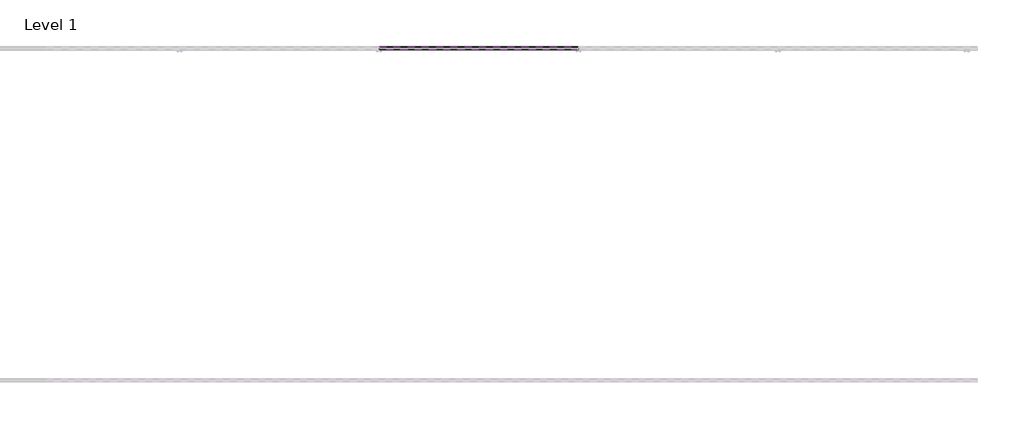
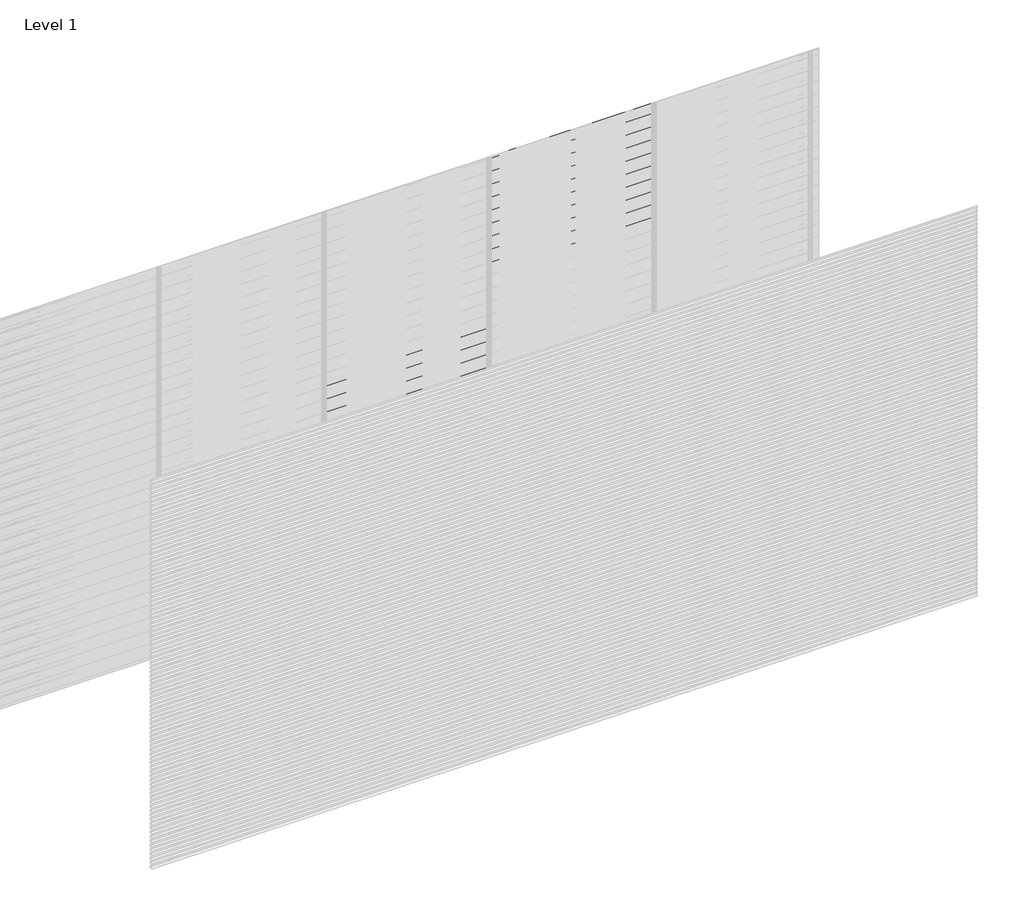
# One storey, part 75 of 77: 78 proxies.
"""IFC4 building model written with IfcOpenShell, lengths in millimetres."""

from ifc_helpers import new_model, si_unit, frame, origin, place, context, project, spatial, polyline, outline, extrude, element, save

model = new_model("IFC4")

# Units and contexts
model_context = context("Model", 3, world=origin())
ifc_project = project(units=[si_unit("LENGTHUNIT", "METRE", prefix="MILLI")], contexts=[model_context])

# Site, building, storey
site = spatial("IfcSite", under=ifc_project)
building = spatial("IfcBuilding", under=site)
storey = spatial("IfcBuildingStorey", under=building, Name="Level 1", Elevation=0.0)

# Proxies
placement = place(None, origin())
element("IfcBuildingElementProxy", 1, Name="Wall Sweeps", at=placement, inside=storey, context=model_context, shape_type="SweptSolid", body=[
    extrude(outline(polyline([(21.4, 1673.8359887), (2.0, 1685.0366691), (2.0, 1698.3), (3.0, 1698.3), (3.0, 1685.6191057), (22.4, 1674.4185105), (22.4, 1660.8185105), (21.4, 1662.3953129), (21.4, 1668.2032062), (4.0226183, 1660.1), (3.6, 1661.0063078), (21.4, 1669.3065841), (21.4, 1673.8359887)])), frame((2400.0, 0.0, 0.0), z_axis=(1.0, 0.0, 0.0), x_axis=(0.0, 1.0, 0.0)), (0.0, 0.0, 1.0), 1200.0),
])
element("IfcBuildingElementProxy", 2, Name="Wall Sweeps", at=placement, inside=storey, context=model_context, shape_type="SweptSolid", body=[
    extrude(outline(polyline([(21.4, 1640.5359887), (2.0, 1651.7366691), (2.0, 1665.0), (3.0, 1665.0), (3.0, 1652.3191057), (22.4, 1641.1185105), (22.4, 1627.5185105), (21.4, 1629.0953129), (21.4, 1634.9032062), (4.0226183, 1626.8), (3.6, 1627.7063078), (21.4, 1636.0065841), (21.4, 1640.5359887)])), frame((2400.0, 0.0, 0.0), z_axis=(1.0, 0.0, 0.0), x_axis=(0.0, 1.0, 0.0)), (0.0, 0.0, 1.0), 1200.0),
])
element("IfcBuildingElementProxy", 3, Name="Wall Sweeps", at=placement, inside=storey, context=model_context, shape_type="SweptSolid", body=[
    extrude(outline(polyline([(21.4, 1607.2359887), (2.0, 1618.4366691), (2.0, 1631.7), (3.0, 1631.7), (3.0, 1619.0191057), (22.4, 1607.8185105), (22.4, 1594.2185105), (21.4, 1595.7953129), (21.4, 1601.6032062), (4.0226183, 1593.5), (3.6, 1594.4063078), (21.4, 1602.7065841), (21.4, 1607.2359887)])), frame((2400.0, 0.0, 0.0), z_axis=(1.0, 0.0, 0.0), x_axis=(0.0, 1.0, 0.0)), (0.0, 0.0, 1.0), 1200.0),
])
element("IfcBuildingElementProxy", 4, Name="Wall Sweeps", at=placement, inside=storey, context=model_context, shape_type="SweptSolid", body=[
    extrude(outline(polyline([(21.4, 1573.9359887), (2.0, 1585.1366691), (2.0, 1598.4), (3.0, 1598.4), (3.0, 1585.7191057), (22.4, 1574.5185105), (22.4, 1560.9185105), (21.4, 1562.4953129), (21.4, 1568.3032062), (4.0226183, 1560.2), (3.6, 1561.1063078), (21.4, 1569.4065841), (21.4, 1573.9359887)])), frame((2400.0, 0.0, 0.0), z_axis=(1.0, 0.0, 0.0), x_axis=(0.0, 1.0, 0.0)), (0.0, 0.0, 1.0), 1200.0),
])
element("IfcBuildingElementProxy", 5, Name="Wall Sweeps", at=placement, inside=storey, context=model_context, shape_type="SweptSolid", body=[
    extrude(outline(polyline([(21.4, 1540.6359887), (2.0, 1551.8366691), (2.0, 1565.1), (3.0, 1565.1), (3.0, 1552.4191057), (22.4, 1541.2185105), (22.4, 1527.6185105), (21.4, 1529.1953129), (21.4, 1535.0032062), (4.0226183, 1526.9), (3.6, 1527.8063078), (21.4, 1536.1065841), (21.4, 1540.6359887)])), frame((2400.0, 0.0, 0.0), z_axis=(1.0, 0.0, 0.0), x_axis=(0.0, 1.0, 0.0)), (0.0, 0.0, 1.0), 1200.0),
])
element("IfcBuildingElementProxy", 6, Name="Wall Sweeps", at=placement, inside=storey, context=model_context, shape_type="SweptSolid", body=[
    extrude(outline(polyline([(21.4, 1507.3359887), (2.0, 1518.5366691), (2.0, 1531.8), (3.0, 1531.8), (3.0, 1519.1191057), (22.4, 1507.9185105), (22.4, 1494.3185105), (21.4, 1495.8953129), (21.4, 1501.7032062), (4.0226183, 1493.6), (3.6, 1494.5063078), (21.4, 1502.8065841), (21.4, 1507.3359887)])), frame((2400.0, 0.0, 0.0), z_axis=(1.0, 0.0, 0.0), x_axis=(0.0, 1.0, 0.0)), (0.0, 0.0, 1.0), 1200.0),
])
element("IfcBuildingElementProxy", 7, Name="Wall Sweeps", at=placement, inside=storey, context=model_context, shape_type="SweptSolid", body=[
    extrude(outline(polyline([(21.4, 1474.0359887), (2.0, 1485.2366691), (2.0, 1498.5), (3.0, 1498.5), (3.0, 1485.8191057), (22.4, 1474.6185105), (22.4, 1461.0185105), (21.4, 1462.5953129), (21.4, 1468.4032062), (4.0226183, 1460.3), (3.6, 1461.2063078), (21.4, 1469.5065841), (21.4, 1474.0359887)])), frame((2400.0, 0.0, 0.0), z_axis=(1.0, 0.0, 0.0), x_axis=(0.0, 1.0, 0.0)), (0.0, 0.0, 1.0), 1200.0),
])
element("IfcBuildingElementProxy", 8, Name="Wall Sweeps", at=placement, inside=storey, context=model_context, shape_type="SweptSolid", body=[
    extrude(outline(polyline([(21.4, 1440.7359887), (2.0, 1451.9366691), (2.0, 1465.2), (3.0, 1465.2), (3.0, 1452.5191057), (22.4, 1441.3185105), (22.4, 1427.7185105), (21.4, 1429.2953129), (21.4, 1435.1032062), (4.0226183, 1427.0), (3.6, 1427.9063078), (21.4, 1436.2065841), (21.4, 1440.7359887)])), frame((2400.0, 0.0, 0.0), z_axis=(1.0, 0.0, 0.0), x_axis=(0.0, 1.0, 0.0)), (0.0, 0.0, 1.0), 1200.0),
])
element("IfcBuildingElementProxy", 9, Name="Wall Sweeps", at=placement, inside=storey, context=model_context, shape_type="SweptSolid", body=[
    extrude(outline(polyline([(21.4, 1407.4359887), (2.0, 1418.6366691), (2.0, 1431.9), (3.0, 1431.9), (3.0, 1419.2191057), (22.4, 1408.0185105), (22.4, 1394.4185105), (21.4, 1395.9953129), (21.4, 1401.8032062), (4.0226183, 1393.7), (3.6, 1394.6063078), (21.4, 1402.9065841), (21.4, 1407.4359887)])), frame((2400.0, 0.0, 0.0), z_axis=(1.0, 0.0, 0.0), x_axis=(0.0, 1.0, 0.0)), (0.0, 0.0, 1.0), 1200.0),
])
element("IfcBuildingElementProxy", 10, Name="Wall Sweeps", at=placement, inside=storey, context=model_context, shape_type="SweptSolid", body=[
    extrude(outline(polyline([(21.4, 1374.1359887), (2.0, 1385.3366691), (2.0, 1398.6), (3.0, 1398.6), (3.0, 1385.9191057), (22.4, 1374.7185105), (22.4, 1361.1185105), (21.4, 1362.6953129), (21.4, 1368.5032062), (4.0226183, 1360.4), (3.6, 1361.3063078), (21.4, 1369.6065841), (21.4, 1374.1359887)])), frame((2400.0, 0.0, 0.0), z_axis=(1.0, 0.0, 0.0), x_axis=(0.0, 1.0, 0.0)), (0.0, 0.0, 1.0), 1200.0),
])
element("IfcBuildingElementProxy", 11, Name="Wall Sweeps", at=placement, inside=storey, context=model_context, shape_type="SweptSolid", body=[
    extrude(outline(polyline([(21.4, 1340.8359887), (2.0, 1352.0366691), (2.0, 1365.3), (3.0, 1365.3), (3.0, 1352.6191057), (22.4, 1341.4185105), (22.4, 1327.8185105), (21.4, 1329.3953129), (21.4, 1335.2032062), (4.0226183, 1327.1), (3.6, 1328.0063078), (21.4, 1336.3065841), (21.4, 1340.8359887)])), frame((2400.0, 0.0, 0.0), z_axis=(1.0, 0.0, 0.0), x_axis=(0.0, 1.0, 0.0)), (0.0, 0.0, 1.0), 1200.0),
])
element("IfcBuildingElementProxy", 12, Name="Wall Sweeps", at=placement, inside=storey, context=model_context, shape_type="SweptSolid", body=[
    extrude(outline(polyline([(21.4, 1307.5359887), (2.0, 1318.7366691), (2.0, 1332.0), (3.0, 1332.0), (3.0, 1319.3191057), (22.4, 1308.1185105), (22.4, 1294.5185105), (21.4, 1296.0953129), (21.4, 1301.9032062), (4.0226183, 1293.8), (3.6, 1294.7063078), (21.4, 1303.0065841), (21.4, 1307.5359887)])), frame((2400.0, 0.0, 0.0), z_axis=(1.0, 0.0, 0.0), x_axis=(0.0, 1.0, 0.0)), (0.0, 0.0, 1.0), 1200.0),
])
element("IfcBuildingElementProxy", 13, Name="Wall Sweeps", at=placement, inside=storey, context=model_context, shape_type="SweptSolid", body=[
    extrude(outline(polyline([(21.4, 1274.2359887), (2.0, 1285.4366691), (2.0, 1298.7), (3.0, 1298.7), (3.0, 1286.0191057), (22.4, 1274.8185105), (22.4, 1261.2185105), (21.4, 1262.7953129), (21.4, 1268.6032062), (4.0226183, 1260.5), (3.6, 1261.4063078), (21.4, 1269.7065841), (21.4, 1274.2359887)])), frame((2400.0, 0.0, 0.0), z_axis=(1.0, 0.0, 0.0), x_axis=(0.0, 1.0, 0.0)), (0.0, 0.0, 1.0), 1200.0),
])
element("IfcBuildingElementProxy", 14, Name="Wall Sweeps", at=placement, inside=storey, context=model_context, shape_type="SweptSolid", body=[
    extrude(outline(polyline([(21.4, 1240.9359887), (2.0, 1252.1366691), (2.0, 1265.4), (3.0, 1265.4), (3.0, 1252.7191057), (22.4, 1241.5185105), (22.4, 1227.9185105), (21.4, 1229.4953129), (21.4, 1235.3032062), (4.0226183, 1227.2), (3.6, 1228.1063078), (21.4, 1236.4065841), (21.4, 1240.9359887)])), frame((2400.0, 0.0, 0.0), z_axis=(1.0, 0.0, 0.0), x_axis=(0.0, 1.0, 0.0)), (0.0, 0.0, 1.0), 1200.0),
])
element("IfcBuildingElementProxy", 15, Name="Wall Sweeps", at=placement, inside=storey, context=model_context, shape_type="SweptSolid", body=[
    extrude(outline(polyline([(21.4, 1207.6359887), (2.0, 1218.8366691), (2.0, 1232.1), (3.0, 1232.1), (3.0, 1219.4191057), (22.4, 1208.2185105), (22.4, 1194.6185105), (21.4, 1196.1953129), (21.4, 1202.0032062), (4.0226183, 1193.9), (3.6, 1194.8063078), (21.4, 1203.1065841), (21.4, 1207.6359887)])), frame((2400.0, 0.0, 0.0), z_axis=(1.0, 0.0, 0.0), x_axis=(0.0, 1.0, 0.0)), (0.0, 0.0, 1.0), 1200.0),
])
element("IfcBuildingElementProxy", 16, Name="Wall Sweeps", at=placement, inside=storey, context=model_context, shape_type="SweptSolid", body=[
    extrude(outline(polyline([(21.4, 1174.3359887), (2.0, 1185.5366691), (2.0, 1198.8), (3.0, 1198.8), (3.0, 1186.1191057), (22.4, 1174.9185105), (22.4, 1161.3185105), (21.4, 1162.8953129), (21.4, 1168.7032062), (4.0226183, 1160.6), (3.6, 1161.5063078), (21.4, 1169.8065841), (21.4, 1174.3359887)])), frame((2400.0, 0.0, 0.0), z_axis=(1.0, 0.0, 0.0), x_axis=(0.0, 1.0, 0.0)), (0.0, 0.0, 1.0), 1200.0),
])
element("IfcBuildingElementProxy", 17, Name="Wall Sweeps", at=placement, inside=storey, context=model_context, shape_type="SweptSolid", body=[
    extrude(outline(polyline([(21.4, 1141.0359887), (2.0, 1152.2366691), (2.0, 1165.5), (3.0, 1165.5), (3.0, 1152.8191057), (22.4, 1141.6185105), (22.4, 1128.0185105), (21.4, 1129.5953129), (21.4, 1135.4032062), (4.0226183, 1127.3), (3.6, 1128.2063078), (21.4, 1136.5065841), (21.4, 1141.0359887)])), frame((2400.0, 0.0, 0.0), z_axis=(1.0, 0.0, 0.0), x_axis=(0.0, 1.0, 0.0)), (0.0, 0.0, 1.0), 1200.0),
])
element("IfcBuildingElementProxy", 18, Name="Wall Sweeps", at=placement, inside=storey, context=model_context, shape_type="SweptSolid", body=[
    extrude(outline(polyline([(21.4, 1107.7359887), (2.0, 1118.9366691), (2.0, 1132.2), (3.0, 1132.2), (3.0, 1119.5191057), (22.4, 1108.3185105), (22.4, 1094.7185105), (21.4, 1096.2953129), (21.4, 1102.1032062), (4.0226183, 1094.0), (3.6, 1094.9063078), (21.4, 1103.2065841), (21.4, 1107.7359887)])), frame((2400.0, 0.0, 0.0), z_axis=(1.0, 0.0, 0.0), x_axis=(0.0, 1.0, 0.0)), (0.0, 0.0, 1.0), 1200.0),
])
element("IfcBuildingElementProxy", 19, Name="Wall Sweeps", at=placement, inside=storey, context=model_context, shape_type="SweptSolid", body=[
    extrude(outline(polyline([(21.4, 1074.4359887), (2.0, 1085.6366691), (2.0, 1098.9), (3.0, 1098.9), (3.0, 1086.2191057), (22.4, 1075.0185105), (22.4, 1061.4185105), (21.4, 1062.9953129), (21.4, 1068.8032062), (4.0226183, 1060.7), (3.6, 1061.6063078), (21.4, 1069.9065841), (21.4, 1074.4359887)])), frame((2400.0, 0.0, 0.0), z_axis=(1.0, 0.0, 0.0), x_axis=(0.0, 1.0, 0.0)), (0.0, 0.0, 1.0), 1200.0),
])
element("IfcBuildingElementProxy", 20, Name="Wall Sweeps", at=placement, inside=storey, context=model_context, shape_type="SweptSolid", body=[
    extrude(outline(polyline([(21.4, 1041.1359887), (2.0, 1052.3366691), (2.0, 1065.6), (3.0, 1065.6), (3.0, 1052.9191057), (22.4, 1041.7185105), (22.4, 1028.1185105), (21.4, 1029.6953129), (21.4, 1035.5032062), (4.0226183, 1027.4), (3.6, 1028.3063078), (21.4, 1036.6065841), (21.4, 1041.1359887)])), frame((2400.0, 0.0, 0.0), z_axis=(1.0, 0.0, 0.0), x_axis=(0.0, 1.0, 0.0)), (0.0, 0.0, 1.0), 1200.0),
])
element("IfcBuildingElementProxy", 21, Name="Wall Sweeps", at=placement, inside=storey, context=model_context, shape_type="SweptSolid", body=[
    extrude(outline(polyline([(21.4, 1007.8359887), (2.0, 1019.0366691), (2.0, 1032.3), (3.0, 1032.3), (3.0, 1019.6191057), (22.4, 1008.4185105), (22.4, 994.8185105), (21.4, 996.3953129), (21.4, 1002.2032062), (4.0226183, 994.1), (3.6, 995.0063078), (21.4, 1003.3065841), (21.4, 1007.8359887)])), frame((2400.0, 0.0, 0.0), z_axis=(1.0, 0.0, 0.0), x_axis=(0.0, 1.0, 0.0)), (0.0, 0.0, 1.0), 1200.0),
])
element("IfcBuildingElementProxy", 22, Name="Wall Sweeps", at=placement, inside=storey, context=model_context, shape_type="SweptSolid", body=[
    extrude(outline(polyline([(21.4, 974.5359887), (2.0, 985.7366691), (2.0, 999.0), (3.0, 999.0), (3.0, 986.3191057), (22.4, 975.1185105), (22.4, 961.5185105), (21.4, 963.0953129), (21.4, 968.9032062), (4.0226183, 960.8), (3.6, 961.7063078), (21.4, 970.0065841), (21.4, 974.5359887)])), frame((2400.0, 0.0, 0.0), z_axis=(1.0, 0.0, 0.0), x_axis=(0.0, 1.0, 0.0)), (0.0, 0.0, 1.0), 1200.0),
])
element("IfcBuildingElementProxy", 23, Name="Wall Sweeps", at=placement, inside=storey, context=model_context, shape_type="SweptSolid", body=[
    extrude(outline(polyline([(21.4, 941.2359887), (2.0, 952.4366691), (2.0, 965.7), (3.0, 965.7), (3.0, 953.0191057), (22.4, 941.8185105), (22.4, 928.2185105), (21.4, 929.7953129), (21.4, 935.6032062), (4.0226183, 927.5), (3.6, 928.4063078), (21.4, 936.7065841), (21.4, 941.2359887)])), frame((2400.0, 0.0, 0.0), z_axis=(1.0, 0.0, 0.0), x_axis=(0.0, 1.0, 0.0)), (0.0, 0.0, 1.0), 1200.0),
])
element("IfcBuildingElementProxy", 24, Name="Wall Sweeps", at=placement, inside=storey, context=model_context, shape_type="SweptSolid", body=[
    extrude(outline(polyline([(21.4, 907.9359887), (2.0, 919.1366691), (2.0, 932.4), (3.0, 932.4), (3.0, 919.7191057), (22.4, 908.5185105), (22.4, 894.9185105), (21.4, 896.4953129), (21.4, 902.3032062), (4.0226183, 894.2), (3.6, 895.1063078), (21.4, 903.4065841), (21.4, 907.9359887)])), frame((2400.0, 0.0, 0.0), z_axis=(1.0, 0.0, 0.0), x_axis=(0.0, 1.0, 0.0)), (0.0, 0.0, 1.0), 1200.0),
])
element("IfcBuildingElementProxy", 25, Name="Wall Sweeps", at=placement, inside=storey, context=model_context, shape_type="SweptSolid", body=[
    extrude(outline(polyline([(21.4, 874.6359887), (2.0, 885.8366691), (2.0, 899.1), (3.0, 899.1), (3.0, 886.4191057), (22.4, 875.2185105), (22.4, 861.6185105), (21.4, 863.1953129), (21.4, 869.0032062), (4.0226183, 860.9), (3.6, 861.8063078), (21.4, 870.1065841), (21.4, 874.6359887)])), frame((2400.0, 0.0, 0.0), z_axis=(1.0, 0.0, 0.0), x_axis=(0.0, 1.0, 0.0)), (0.0, 0.0, 1.0), 1200.0),
])
element("IfcBuildingElementProxy", 26, Name="Wall Sweeps", at=placement, inside=storey, context=model_context, shape_type="SweptSolid", body=[
    extrude(outline(polyline([(21.4, 841.3359887), (2.0, 852.5366691), (2.0, 865.8), (3.0, 865.8), (3.0, 853.1191057), (22.4, 841.9185105), (22.4, 828.3185105), (21.4, 829.8953129), (21.4, 835.7032062), (4.0226183, 827.6), (3.6, 828.5063078), (21.4, 836.8065841), (21.4, 841.3359887)])), frame((2400.0, 0.0, 0.0), z_axis=(1.0, 0.0, 0.0), x_axis=(0.0, 1.0, 0.0)), (0.0, 0.0, 1.0), 1200.0),
])
element("IfcBuildingElementProxy", 27, Name="Wall Sweeps", at=placement, inside=storey, context=model_context, shape_type="SweptSolid", body=[
    extrude(outline(polyline([(21.4, 808.0359887), (2.0, 819.2366691), (2.0, 832.5), (3.0, 832.5), (3.0, 819.8191057), (22.4, 808.6185105), (22.4, 795.0185105), (21.4, 796.5953129), (21.4, 802.4032062), (4.0226183, 794.3), (3.6, 795.2063078), (21.4, 803.5065841), (21.4, 808.0359887)])), frame((2400.0, 0.0, 0.0), z_axis=(1.0, 0.0, 0.0), x_axis=(0.0, 1.0, 0.0)), (0.0, 0.0, 1.0), 1200.0),
])
element("IfcBuildingElementProxy", 28, Name="Wall Sweeps", at=placement, inside=storey, context=model_context, shape_type="SweptSolid", body=[
    extrude(outline(polyline([(21.4, 774.7359887), (2.0, 785.9366691), (2.0, 799.2), (3.0, 799.2), (3.0, 786.5191057), (22.4, 775.3185105), (22.4, 761.7185105), (21.4, 763.2953129), (21.4, 769.1032062), (4.0226183, 761.0), (3.6, 761.9063078), (21.4, 770.2065841), (21.4, 774.7359887)])), frame((2400.0, 0.0, 0.0), z_axis=(1.0, 0.0, 0.0), x_axis=(0.0, 1.0, 0.0)), (0.0, 0.0, 1.0), 1200.0),
])
element("IfcBuildingElementProxy", 29, Name="Wall Sweeps", at=placement, inside=storey, context=model_context, shape_type="SweptSolid", body=[
    extrude(outline(polyline([(21.4, 741.4359887), (2.0, 752.6366691), (2.0, 765.9), (3.0, 765.9), (3.0, 753.2191057), (22.4, 742.0185105), (22.4, 728.4185105), (21.4, 729.9953129), (21.4, 735.8032062), (4.0226183, 727.7), (3.6, 728.6063078), (21.4, 736.9065841), (21.4, 741.4359887)])), frame((2400.0, 0.0, 0.0), z_axis=(1.0, 0.0, 0.0), x_axis=(0.0, 1.0, 0.0)), (0.0, 0.0, 1.0), 1200.0),
])
element("IfcBuildingElementProxy", 30, Name="Wall Sweeps", at=placement, inside=storey, context=model_context, shape_type="SweptSolid", body=[
    extrude(outline(polyline([(21.4, 708.1359887), (2.0, 719.3366691), (2.0, 732.6), (3.0, 732.6), (3.0, 719.9191057), (22.4, 708.7185105), (22.4, 695.1185105), (21.4, 696.6953129), (21.4, 702.5032062), (4.0226183, 694.4), (3.6, 695.3063078), (21.4, 703.6065841), (21.4, 708.1359887)])), frame((2400.0, 0.0, 0.0), z_axis=(1.0, 0.0, 0.0), x_axis=(0.0, 1.0, 0.0)), (0.0, 0.0, 1.0), 1200.0),
])
element("IfcBuildingElementProxy", 31, Name="Wall Sweeps", at=placement, inside=storey, context=model_context, shape_type="SweptSolid", body=[
    extrude(outline(polyline([(21.4, 674.8359887), (2.0, 686.0366691), (2.0, 699.3), (3.0, 699.3), (3.0, 686.6191057), (22.4, 675.4185105), (22.4, 661.8185105), (21.4, 663.3953129), (21.4, 669.2032062), (4.0226183, 661.1), (3.6, 662.0063078), (21.4, 670.3065841), (21.4, 674.8359887)])), frame((2400.0, 0.0, 0.0), z_axis=(1.0, 0.0, 0.0), x_axis=(0.0, 1.0, 0.0)), (0.0, 0.0, 1.0), 1200.0),
])
element("IfcBuildingElementProxy", 32, Name="Wall Sweeps", at=placement, inside=storey, context=model_context, shape_type="SweptSolid", body=[
    extrude(outline(polyline([(21.4, 641.5359887), (2.0, 652.7366691), (2.0, 666.0), (3.0, 666.0), (3.0, 653.3191057), (22.4, 642.1185105), (22.4, 628.5185105), (21.4, 630.0953129), (21.4, 635.9032062), (4.0226183, 627.8), (3.6, 628.7063078), (21.4, 637.0065841), (21.4, 641.5359887)])), frame((2400.0, 0.0, 0.0), z_axis=(1.0, 0.0, 0.0), x_axis=(0.0, 1.0, 0.0)), (0.0, 0.0, 1.0), 1200.0),
])
element("IfcBuildingElementProxy", 33, Name="Wall Sweeps", at=placement, inside=storey, context=model_context, shape_type="SweptSolid", body=[
    extrude(outline(polyline([(21.4, 608.2359887), (2.0, 619.4366691), (2.0, 632.7), (3.0, 632.7), (3.0, 620.0191057), (22.4, 608.8185105), (22.4, 595.2185105), (21.4, 596.7953129), (21.4, 602.6032062), (4.0226183, 594.5), (3.6, 595.4063078), (21.4, 603.7065841), (21.4, 608.2359887)])), frame((2400.0, 0.0, 0.0), z_axis=(1.0, 0.0, 0.0), x_axis=(0.0, 1.0, 0.0)), (0.0, 0.0, 1.0), 1200.0),
])
element("IfcBuildingElementProxy", 34, Name="Wall Sweeps", at=placement, inside=storey, context=model_context, shape_type="SweptSolid", body=[
    extrude(outline(polyline([(21.4, 574.9359887), (2.0, 586.1366691), (2.0, 599.4), (3.0, 599.4), (3.0, 586.7191057), (22.4, 575.5185105), (22.4, 561.9185105), (21.4, 563.4953129), (21.4, 569.3032062), (4.0226183, 561.2), (3.6, 562.1063078), (21.4, 570.4065841), (21.4, 574.9359887)])), frame((2400.0, 0.0, 0.0), z_axis=(1.0, 0.0, 0.0), x_axis=(0.0, 1.0, 0.0)), (0.0, 0.0, 1.0), 1200.0),
])
element("IfcBuildingElementProxy", 35, Name="Wall Sweeps", at=placement, inside=storey, context=model_context, shape_type="SweptSolid", body=[
    extrude(outline(polyline([(21.4, 541.6359887), (2.0, 552.8366691), (2.0, 566.1), (3.0, 566.1), (3.0, 553.4191057), (22.4, 542.2185105), (22.4, 528.6185105), (21.4, 530.1953129), (21.4, 536.0032062), (4.0226183, 527.9), (3.6, 528.8063078), (21.4, 537.1065841), (21.4, 541.6359887)])), frame((2400.0, 0.0, 0.0), z_axis=(1.0, 0.0, 0.0), x_axis=(0.0, 1.0, 0.0)), (0.0, 0.0, 1.0), 1200.0),
])
element("IfcBuildingElementProxy", 36, Name="Wall Sweeps", at=placement, inside=storey, context=model_context, shape_type="SweptSolid", body=[
    extrude(outline(polyline([(21.4, 508.3359887), (2.0, 519.5366691), (2.0, 532.8), (3.0, 532.8), (3.0, 520.1191057), (22.4, 508.9185105), (22.4, 495.3185105), (21.4, 496.8953129), (21.4, 502.7032062), (4.0226183, 494.6), (3.6, 495.5063078), (21.4, 503.8065841), (21.4, 508.3359887)])), frame((2400.0, 0.0, 0.0), z_axis=(1.0, 0.0, 0.0), x_axis=(0.0, 1.0, 0.0)), (0.0, 0.0, 1.0), 1200.0),
])
element("IfcBuildingElementProxy", 37, Name="Wall Sweeps", at=placement, inside=storey, context=model_context, shape_type="SweptSolid", body=[
    extrude(outline(polyline([(21.4, 475.0359887), (2.0, 486.2366691), (2.0, 499.5), (3.0, 499.5), (3.0, 486.8191057), (22.4, 475.6185105), (22.4, 462.0185105), (21.4, 463.5953129), (21.4, 469.4032062), (4.0226183, 461.3), (3.6, 462.2063078), (21.4, 470.5065841), (21.4, 475.0359887)])), frame((2400.0, 0.0, 0.0), z_axis=(1.0, 0.0, 0.0), x_axis=(0.0, 1.0, 0.0)), (0.0, 0.0, 1.0), 1200.0),
])
element("IfcBuildingElementProxy", 38, Name="Wall Sweeps", at=placement, inside=storey, context=model_context, shape_type="SweptSolid", body=[
    extrude(outline(polyline([(21.4, 441.7359887), (2.0, 452.9366691), (2.0, 466.2), (3.0, 466.2), (3.0, 453.5191057), (22.4, 442.3185105), (22.4, 428.7185105), (21.4, 430.2953129), (21.4, 436.1032062), (4.0226183, 428.0), (3.6, 428.9063078), (21.4, 437.2065841), (21.4, 441.7359887)])), frame((2400.0, 0.0, 0.0), z_axis=(1.0, 0.0, 0.0), x_axis=(0.0, 1.0, 0.0)), (0.0, 0.0, 1.0), 1200.0),
])
element("IfcBuildingElementProxy", 39, Name="Wall Sweeps", at=placement, inside=storey, context=model_context, shape_type="SweptSolid", body=[
    extrude(outline(polyline([(21.4, 408.4359887), (2.0, 419.6366691), (2.0, 432.9), (3.0, 432.9), (3.0, 420.2191057), (22.4, 409.0185105), (22.4, 395.4185105), (21.4, 396.9953129), (21.4, 402.8032062), (4.0226183, 394.7), (3.6, 395.6063078), (21.4, 403.9065841), (21.4, 408.4359887)])), frame((2400.0, 0.0, 0.0), z_axis=(1.0, 0.0, 0.0), x_axis=(0.0, 1.0, 0.0)), (0.0, 0.0, 1.0), 1200.0),
])
element("IfcBuildingElementProxy", 40, Name="Wall Sweeps", at=placement, inside=storey, context=model_context, shape_type="SweptSolid", body=[
    extrude(outline(polyline([(21.4, 375.1359887), (2.0, 386.3366691), (2.0, 399.6), (3.0, 399.6), (3.0, 386.9191057), (22.4, 375.7185105), (22.4, 362.1185105), (21.4, 363.6953129), (21.4, 369.5032062), (4.0226183, 361.4), (3.6, 362.3063078), (21.4, 370.6065841), (21.4, 375.1359887)])), frame((2400.0, 0.0, 0.0), z_axis=(1.0, 0.0, 0.0), x_axis=(0.0, 1.0, 0.0)), (0.0, 0.0, 1.0), 1200.0),
])
element("IfcBuildingElementProxy", 41, Name="Wall Sweeps", at=placement, inside=storey, context=model_context, shape_type="SweptSolid", body=[
    extrude(outline(polyline([(21.4, 341.8359887), (2.0, 353.0366691), (2.0, 366.3), (3.0, 366.3), (3.0, 353.6191057), (22.4, 342.4185105), (22.4, 328.8185105), (21.4, 330.3953129), (21.4, 336.2032062), (4.0226183, 328.1), (3.6, 329.0063078), (21.4, 337.3065841), (21.4, 341.8359887)])), frame((2400.0, 0.0, 0.0), z_axis=(1.0, 0.0, 0.0), x_axis=(0.0, 1.0, 0.0)), (0.0, 0.0, 1.0), 1200.0),
])
element("IfcBuildingElementProxy", 42, Name="Wall Sweeps", at=placement, inside=storey, context=model_context, shape_type="SweptSolid", body=[
    extrude(outline(polyline([(21.4, 308.5359887), (2.0, 319.7366691), (2.0, 333.0), (3.0, 333.0), (3.0, 320.3191057), (22.4, 309.1185105), (22.4, 295.5185105), (21.4, 297.0953129), (21.4, 302.9032062), (4.0226183, 294.8), (3.6, 295.7063078), (21.4, 304.0065841), (21.4, 308.5359887)])), frame((2400.0, 0.0, 0.0), z_axis=(1.0, 0.0, 0.0), x_axis=(0.0, 1.0, 0.0)), (0.0, 0.0, 1.0), 1200.0),
])
element("IfcBuildingElementProxy", 43, Name="Wall Sweeps", at=placement, inside=storey, context=model_context, shape_type="SweptSolid", body=[
    extrude(outline(polyline([(21.4, 275.2359887), (2.0, 286.4366691), (2.0, 299.7), (3.0, 299.7), (3.0, 287.0191057), (22.4, 275.8185105), (22.4, 262.2185105), (21.4, 263.7953129), (21.4, 269.6032062), (4.0226183, 261.5), (3.6, 262.4063078), (21.4, 270.7065841), (21.4, 275.2359887)])), frame((2400.0, 0.0, 0.0), z_axis=(1.0, 0.0, 0.0), x_axis=(0.0, 1.0, 0.0)), (0.0, 0.0, 1.0), 1200.0),
])
element("IfcBuildingElementProxy", 44, Name="Wall Sweeps", at=placement, inside=storey, context=model_context, shape_type="SweptSolid", body=[
    extrude(outline(polyline([(21.4, 241.9359887), (2.0, 253.1366691), (2.0, 266.4), (3.0, 266.4), (3.0, 253.7191057), (22.4, 242.5185105), (22.4, 228.9185105), (21.4, 230.4953129), (21.4, 236.3032062), (4.0226183, 228.2), (3.6, 229.1063078), (21.4, 237.4065841), (21.4, 241.9359887)])), frame((2400.0, 0.0, 0.0), z_axis=(1.0, 0.0, 0.0), x_axis=(0.0, 1.0, 0.0)), (0.0, 0.0, 1.0), 1200.0),
])
element("IfcBuildingElementProxy", 45, Name="Wall Sweeps", at=placement, inside=storey, context=model_context, shape_type="SweptSolid", body=[
    extrude(outline(polyline([(21.4, 208.6359887), (2.0, 219.8366691), (2.0, 233.1), (3.0, 233.1), (3.0, 220.4191057), (22.4, 209.2185105), (22.4, 195.6185105), (21.4, 197.1953129), (21.4, 203.0032062), (4.0226183, 194.9), (3.6, 195.8063078), (21.4, 204.1065841), (21.4, 208.6359887)])), frame((2400.0, 0.0, 0.0), z_axis=(1.0, 0.0, 0.0), x_axis=(0.0, 1.0, 0.0)), (0.0, 0.0, 1.0), 1200.0),
])
element("IfcBuildingElementProxy", 46, Name="Wall Sweeps", at=placement, inside=storey, context=model_context, shape_type="SweptSolid", body=[
    extrude(outline(polyline([(21.4, 175.3359887), (2.0, 186.5366691), (2.0, 199.8), (3.0, 199.8), (3.0, 187.1191057), (22.4, 175.9185105), (22.4, 162.3185105), (21.4, 163.8953129), (21.4, 169.7032062), (4.0226183, 161.6), (3.6, 162.5063078), (21.4, 170.8065841), (21.4, 175.3359887)])), frame((2400.0, 0.0, 0.0), z_axis=(1.0, 0.0, 0.0), x_axis=(0.0, 1.0, 0.0)), (0.0, 0.0, 1.0), 1200.0),
])
element("IfcBuildingElementProxy", 47, Name="Wall Sweeps", at=placement, inside=storey, context=model_context, shape_type="SweptSolid", body=[
    extrude(outline(polyline([(21.4, 142.0359887), (2.0, 153.2366691), (2.0, 166.5), (3.0, 166.5), (3.0, 153.8191057), (22.4, 142.6185105), (22.4, 129.0185105), (21.4, 130.5953129), (21.4, 136.4032062), (4.0226183, 128.3), (3.6, 129.2063078), (21.4, 137.5065841), (21.4, 142.0359887)])), frame((2400.0, 0.0, 0.0), z_axis=(1.0, 0.0, 0.0), x_axis=(0.0, 1.0, 0.0)), (0.0, 0.0, 1.0), 1200.0),
])
element("IfcBuildingElementProxy", 48, Name="Wall Sweeps", at=placement, inside=storey, context=model_context, shape_type="SweptSolid", body=[
    extrude(outline(polyline([(21.4, 108.7359887), (2.0, 119.9366691), (2.0, 133.2), (3.0, 133.2), (3.0, 120.5191057), (22.4, 109.3185105), (22.4, 95.7185105), (21.4, 97.2953129), (21.4, 103.1032062), (4.0226183, 95.0), (3.6, 95.9063078), (21.4, 104.2065841), (21.4, 108.7359887)])), frame((2400.0, 0.0, 0.0), z_axis=(1.0, 0.0, 0.0), x_axis=(0.0, 1.0, 0.0)), (0.0, 0.0, 1.0), 1200.0),
])
element("IfcBuildingElementProxy", 49, Name="Wall Sweeps", at=placement, inside=storey, context=model_context, shape_type="SweptSolid", body=[
    extrude(outline(polyline([(21.4, 75.4359887), (2.0, 86.6366691), (2.0, 99.9), (3.0, 99.9), (3.0, 87.2191057), (22.4, 76.0185105), (22.4, 62.4185105), (21.4, 63.9953129), (21.4, 69.8032062), (4.0226183, 61.7), (3.6, 62.6063078), (21.4, 70.9065841), (21.4, 75.4359887)])), frame((2400.0, 0.0, 0.0), z_axis=(1.0, 0.0, 0.0), x_axis=(0.0, 1.0, 0.0)), (0.0, 0.0, 1.0), 1200.0),
])
element("IfcBuildingElementProxy", 50, Name="Wall Sweeps", at=placement, inside=storey, context=model_context, shape_type="SweptSolid", body=[
    extrude(outline(polyline([(21.4, 42.1359887), (2.0, 53.3366691), (2.0, 66.6), (3.0, 66.6), (3.0, 53.9191057), (22.4, 42.7185105), (22.4, 29.1185105), (21.4, 30.6953129), (21.4, 36.5032062), (4.0226183, 28.4), (3.6, 29.3063078), (21.4, 37.6065841), (21.4, 42.1359887)])), frame((2400.0, 0.0, 0.0), z_axis=(1.0, 0.0, 0.0), x_axis=(0.0, 1.0, 0.0)), (0.0, 0.0, 1.0), 1200.0),
])
element("IfcBuildingElementProxy", 51, Name="Wall Sweeps", at=placement, inside=storey, context=model_context, shape_type="SweptSolid", body=[
    extrude(outline(polyline([(21.4, 8.8359887), (2.0, 20.0366691), (2.0, 33.3), (3.0, 33.3), (3.0, 20.6191057), (22.4, 9.4185105), (22.4, -4.1814895), (21.4, -2.6046871), (21.4, 3.2032062), (4.0226183, -4.9), (3.6, -3.9936922), (21.4, 4.3065841), (21.4, 8.8359887)])), frame((2400.0, 0.0, 0.0), z_axis=(1.0, 0.0, 0.0), x_axis=(0.0, 1.0, 0.0)), (0.0, 0.0, 1.0), 1200.0),
])
element("IfcBuildingElementProxy", 52, Name="Wall Sweeps", at=placement, inside=storey, context=model_context, shape_type="SweptSolid", body=[
    extrude(outline(polyline([(21.4, 2972.5359887), (2.0, 2983.7366691), (2.0, 2997.0), (3.0, 2997.0), (3.0, 2984.3191057), (22.4, 2973.1185105), (22.4, 2959.5185105), (21.4, 2961.0953129), (21.4, 2966.9032062), (4.0226183, 2958.8), (3.6, 2959.7063078), (21.4, 2968.0065841), (21.4, 2972.5359887)])), frame((3600.0, 0.0, 0.0), z_axis=(1.0, 0.0, 0.0), x_axis=(0.0, 1.0, 0.0)), (0.0, 0.0, 1.0), 1200.0),
])
element("IfcBuildingElementProxy", 53, Name="Wall Sweeps", at=placement, inside=storey, context=model_context, shape_type="SweptSolid", body=[
    extrude(outline(polyline([(21.4, 2939.2359887), (2.0, 2950.4366691), (2.0, 2963.7), (3.0, 2963.7), (3.0, 2951.0191057), (22.4, 2939.8185105), (22.4, 2926.2185105), (21.4, 2927.7953129), (21.4, 2933.6032062), (4.0226183, 2925.5), (3.6, 2926.4063078), (21.4, 2934.7065841), (21.4, 2939.2359887)])), frame((3600.0, 0.0, 0.0), z_axis=(1.0, 0.0, 0.0), x_axis=(0.0, 1.0, 0.0)), (0.0, 0.0, 1.0), 1200.0),
])
element("IfcBuildingElementProxy", 54, Name="Wall Sweeps", at=placement, inside=storey, context=model_context, shape_type="SweptSolid", body=[
    extrude(outline(polyline([(21.4, 2905.9359887), (2.0, 2917.1366691), (2.0, 2930.4), (3.0, 2930.4), (3.0, 2917.7191057), (22.4, 2906.5185105), (22.4, 2892.9185105), (21.4, 2894.4953129), (21.4, 2900.3032062), (4.0226183, 2892.2), (3.6, 2893.1063078), (21.4, 2901.4065841), (21.4, 2905.9359887)])), frame((3600.0, 0.0, 0.0), z_axis=(1.0, 0.0, 0.0), x_axis=(0.0, 1.0, 0.0)), (0.0, 0.0, 1.0), 1200.0),
])
element("IfcBuildingElementProxy", 55, Name="Wall Sweeps", at=placement, inside=storey, context=model_context, shape_type="SweptSolid", body=[
    extrude(outline(polyline([(21.4, 2872.6359887), (2.0, 2883.8366691), (2.0, 2897.1), (3.0, 2897.1), (3.0, 2884.4191057), (22.4, 2873.2185105), (22.4, 2859.6185105), (21.4, 2861.1953129), (21.4, 2867.0032062), (4.0226183, 2858.9), (3.6, 2859.8063078), (21.4, 2868.1065841), (21.4, 2872.6359887)])), frame((3600.0, 0.0, 0.0), z_axis=(1.0, 0.0, 0.0), x_axis=(0.0, 1.0, 0.0)), (0.0, 0.0, 1.0), 1200.0),
])
element("IfcBuildingElementProxy", 56, Name="Wall Sweeps", at=placement, inside=storey, context=model_context, shape_type="SweptSolid", body=[
    extrude(outline(polyline([(21.4, 2839.3359887), (2.0, 2850.5366691), (2.0, 2863.8), (3.0, 2863.8), (3.0, 2851.1191057), (22.4, 2839.9185105), (22.4, 2826.3185105), (21.4, 2827.8953129), (21.4, 2833.7032062), (4.0226183, 2825.6), (3.6, 2826.5063078), (21.4, 2834.8065841), (21.4, 2839.3359887)])), frame((3600.0, 0.0, 0.0), z_axis=(1.0, 0.0, 0.0), x_axis=(0.0, 1.0, 0.0)), (0.0, 0.0, 1.0), 1200.0),
])
element("IfcBuildingElementProxy", 57, Name="Wall Sweeps", at=placement, inside=storey, context=model_context, shape_type="SweptSolid", body=[
    extrude(outline(polyline([(21.4, 2806.0359887), (2.0, 2817.2366691), (2.0, 2830.5), (3.0, 2830.5), (3.0, 2817.8191057), (22.4, 2806.6185105), (22.4, 2793.0185105), (21.4, 2794.5953129), (21.4, 2800.4032062), (4.0226183, 2792.3), (3.6, 2793.2063078), (21.4, 2801.5065841), (21.4, 2806.0359887)])), frame((3600.0, 0.0, 0.0), z_axis=(1.0, 0.0, 0.0), x_axis=(0.0, 1.0, 0.0)), (0.0, 0.0, 1.0), 1200.0),
])
element("IfcBuildingElementProxy", 58, Name="Wall Sweeps", at=placement, inside=storey, context=model_context, shape_type="SweptSolid", body=[
    extrude(outline(polyline([(21.4, 2772.7359887), (2.0, 2783.9366691), (2.0, 2797.2), (3.0, 2797.2), (3.0, 2784.5191057), (22.4, 2773.3185105), (22.4, 2759.7185105), (21.4, 2761.2953129), (21.4, 2767.1032062), (4.0226183, 2759.0), (3.6, 2759.9063078), (21.4, 2768.2065841), (21.4, 2772.7359887)])), frame((3600.0, 0.0, 0.0), z_axis=(1.0, 0.0, 0.0), x_axis=(0.0, 1.0, 0.0)), (0.0, 0.0, 1.0), 1200.0),
])
element("IfcBuildingElementProxy", 59, Name="Wall Sweeps", at=placement, inside=storey, context=model_context, shape_type="SweptSolid", body=[
    extrude(outline(polyline([(21.4, 2739.4359887), (2.0, 2750.6366691), (2.0, 2763.9), (3.0, 2763.9), (3.0, 2751.2191057), (22.4, 2740.0185105), (22.4, 2726.4185105), (21.4, 2727.9953129), (21.4, 2733.8032062), (4.0226183, 2725.7), (3.6, 2726.6063078), (21.4, 2734.9065841), (21.4, 2739.4359887)])), frame((3600.0, 0.0, 0.0), z_axis=(1.0, 0.0, 0.0), x_axis=(0.0, 1.0, 0.0)), (0.0, 0.0, 1.0), 1200.0),
])
element("IfcBuildingElementProxy", 60, Name="Wall Sweeps", at=placement, inside=storey, context=model_context, shape_type="SweptSolid", body=[
    extrude(outline(polyline([(21.4, 2706.1359887), (2.0, 2717.3366691), (2.0, 2730.6), (3.0, 2730.6), (3.0, 2717.9191057), (22.4, 2706.7185105), (22.4, 2693.1185105), (21.4, 2694.6953129), (21.4, 2700.5032062), (4.0226183, 2692.4), (3.6, 2693.3063078), (21.4, 2701.6065841), (21.4, 2706.1359887)])), frame((3600.0, 0.0, 0.0), z_axis=(1.0, 0.0, 0.0), x_axis=(0.0, 1.0, 0.0)), (0.0, 0.0, 1.0), 1200.0),
])
element("IfcBuildingElementProxy", 61, Name="Wall Sweeps", at=placement, inside=storey, context=model_context, shape_type="SweptSolid", body=[
    extrude(outline(polyline([(21.4, 2672.8359887), (2.0, 2684.0366691), (2.0, 2697.3), (3.0, 2697.3), (3.0, 2684.6191057), (22.4, 2673.4185105), (22.4, 2659.8185105), (21.4, 2661.3953129), (21.4, 2667.2032062), (4.0226183, 2659.1), (3.6, 2660.0063078), (21.4, 2668.3065841), (21.4, 2672.8359887)])), frame((3600.0, 0.0, 0.0), z_axis=(1.0, 0.0, 0.0), x_axis=(0.0, 1.0, 0.0)), (0.0, 0.0, 1.0), 1200.0),
])
element("IfcBuildingElementProxy", 62, Name="Wall Sweeps", at=placement, inside=storey, context=model_context, shape_type="SweptSolid", body=[
    extrude(outline(polyline([(21.4, 2639.5359887), (2.0, 2650.7366691), (2.0, 2664.0), (3.0, 2664.0), (3.0, 2651.3191057), (22.4, 2640.1185105), (22.4, 2626.5185105), (21.4, 2628.0953129), (21.4, 2633.9032062), (4.0226183, 2625.8), (3.6, 2626.7063078), (21.4, 2635.0065841), (21.4, 2639.5359887)])), frame((3600.0, 0.0, 0.0), z_axis=(1.0, 0.0, 0.0), x_axis=(0.0, 1.0, 0.0)), (0.0, 0.0, 1.0), 1200.0),
])
element("IfcBuildingElementProxy", 63, Name="Wall Sweeps", at=placement, inside=storey, context=model_context, shape_type="SweptSolid", body=[
    extrude(outline(polyline([(21.4, 2606.2359887), (2.0, 2617.4366691), (2.0, 2630.7), (3.0, 2630.7), (3.0, 2618.0191057), (22.4, 2606.8185105), (22.4, 2593.2185105), (21.4, 2594.7953129), (21.4, 2600.6032062), (4.0226183, 2592.5), (3.6, 2593.4063078), (21.4, 2601.7065841), (21.4, 2606.2359887)])), frame((3600.0, 0.0, 0.0), z_axis=(1.0, 0.0, 0.0), x_axis=(0.0, 1.0, 0.0)), (0.0, 0.0, 1.0), 1200.0),
])
element("IfcBuildingElementProxy", 64, Name="Wall Sweeps", at=placement, inside=storey, context=model_context, shape_type="SweptSolid", body=[
    extrude(outline(polyline([(21.4, 2572.9359887), (2.0, 2584.1366691), (2.0, 2597.4), (3.0, 2597.4), (3.0, 2584.7191057), (22.4, 2573.5185105), (22.4, 2559.9185105), (21.4, 2561.4953129), (21.4, 2567.3032062), (4.0226183, 2559.2), (3.6, 2560.1063078), (21.4, 2568.4065841), (21.4, 2572.9359887)])), frame((3600.0, 0.0, 0.0), z_axis=(1.0, 0.0, 0.0), x_axis=(0.0, 1.0, 0.0)), (0.0, 0.0, 1.0), 1200.0),
])
element("IfcBuildingElementProxy", 65, Name="Wall Sweeps", at=placement, inside=storey, context=model_context, shape_type="SweptSolid", body=[
    extrude(outline(polyline([(21.4, 2539.6359887), (2.0, 2550.8366691), (2.0, 2564.1), (3.0, 2564.1), (3.0, 2551.4191057), (22.4, 2540.2185105), (22.4, 2526.6185105), (21.4, 2528.1953129), (21.4, 2534.0032062), (4.0226183, 2525.9), (3.6, 2526.8063078), (21.4, 2535.1065841), (21.4, 2539.6359887)])), frame((3600.0, 0.0, 0.0), z_axis=(1.0, 0.0, 0.0), x_axis=(0.0, 1.0, 0.0)), (0.0, 0.0, 1.0), 1200.0),
])
element("IfcBuildingElementProxy", 66, Name="Wall Sweeps", at=placement, inside=storey, context=model_context, shape_type="SweptSolid", body=[
    extrude(outline(polyline([(21.4, 2506.3359887), (2.0, 2517.5366691), (2.0, 2530.8), (3.0, 2530.8), (3.0, 2518.1191057), (22.4, 2506.9185105), (22.4, 2493.3185105), (21.4, 2494.8953129), (21.4, 2500.7032062), (4.0226183, 2492.6), (3.6, 2493.5063078), (21.4, 2501.8065841), (21.4, 2506.3359887)])), frame((3600.0, 0.0, 0.0), z_axis=(1.0, 0.0, 0.0), x_axis=(0.0, 1.0, 0.0)), (0.0, 0.0, 1.0), 1200.0),
])
element("IfcBuildingElementProxy", 67, Name="Wall Sweeps", at=placement, inside=storey, context=model_context, shape_type="SweptSolid", body=[
    extrude(outline(polyline([(21.4, 2473.0359887), (2.0, 2484.2366691), (2.0, 2497.5), (3.0, 2497.5), (3.0, 2484.8191057), (22.4, 2473.6185105), (22.4, 2460.0185105), (21.4, 2461.5953129), (21.4, 2467.4032062), (4.0226183, 2459.3), (3.6, 2460.2063078), (21.4, 2468.5065841), (21.4, 2473.0359887)])), frame((3600.0, 0.0, 0.0), z_axis=(1.0, 0.0, 0.0), x_axis=(0.0, 1.0, 0.0)), (0.0, 0.0, 1.0), 1200.0),
])
element("IfcBuildingElementProxy", 68, Name="Wall Sweeps", at=placement, inside=storey, context=model_context, shape_type="SweptSolid", body=[
    extrude(outline(polyline([(21.4, 2439.7359887), (2.0, 2450.9366691), (2.0, 2464.2), (3.0, 2464.2), (3.0, 2451.5191057), (22.4, 2440.3185105), (22.4, 2426.7185105), (21.4, 2428.2953129), (21.4, 2434.1032062), (4.0226183, 2426.0), (3.6, 2426.9063078), (21.4, 2435.2065841), (21.4, 2439.7359887)])), frame((3600.0, 0.0, 0.0), z_axis=(1.0, 0.0, 0.0), x_axis=(0.0, 1.0, 0.0)), (0.0, 0.0, 1.0), 1200.0),
])
element("IfcBuildingElementProxy", 69, Name="Wall Sweeps", at=placement, inside=storey, context=model_context, shape_type="SweptSolid", body=[
    extrude(outline(polyline([(21.4, 2406.4359887), (2.0, 2417.6366691), (2.0, 2430.9), (3.0, 2430.9), (3.0, 2418.2191057), (22.4, 2407.0185105), (22.4, 2393.4185105), (21.4, 2394.9953129), (21.4, 2400.8032062), (4.0226183, 2392.7), (3.6, 2393.6063078), (21.4, 2401.9065841), (21.4, 2406.4359887)])), frame((3600.0, 0.0, 0.0), z_axis=(1.0, 0.0, 0.0), x_axis=(0.0, 1.0, 0.0)), (0.0, 0.0, 1.0), 1200.0),
])
element("IfcBuildingElementProxy", 70, Name="Wall Sweeps", at=placement, inside=storey, context=model_context, shape_type="SweptSolid", body=[
    extrude(outline(polyline([(21.4, 2373.1359887), (2.0, 2384.3366691), (2.0, 2397.6), (3.0, 2397.6), (3.0, 2384.9191057), (22.4, 2373.7185105), (22.4, 2360.1185105), (21.4, 2361.6953129), (21.4, 2367.5032062), (4.0226183, 2359.4), (3.6, 2360.3063078), (21.4, 2368.6065841), (21.4, 2373.1359887)])), frame((3600.0, 0.0, 0.0), z_axis=(1.0, 0.0, 0.0), x_axis=(0.0, 1.0, 0.0)), (0.0, 0.0, 1.0), 1200.0),
])
element("IfcBuildingElementProxy", 71, Name="Wall Sweeps", at=placement, inside=storey, context=model_context, shape_type="SweptSolid", body=[
    extrude(outline(polyline([(21.4, 2339.8359887), (2.0, 2351.0366691), (2.0, 2364.3), (3.0, 2364.3), (3.0, 2351.6191057), (22.4, 2340.4185105), (22.4, 2326.8185105), (21.4, 2328.3953129), (21.4, 2334.2032062), (4.0226183, 2326.1), (3.6, 2327.0063078), (21.4, 2335.3065841), (21.4, 2339.8359887)])), frame((3600.0, 0.0, 0.0), z_axis=(1.0, 0.0, 0.0), x_axis=(0.0, 1.0, 0.0)), (0.0, 0.0, 1.0), 1200.0),
])
element("IfcBuildingElementProxy", 72, Name="Wall Sweeps", at=placement, inside=storey, context=model_context, shape_type="SweptSolid", body=[
    extrude(outline(polyline([(21.4, 2306.5359887), (2.0, 2317.7366691), (2.0, 2331.0), (3.0, 2331.0), (3.0, 2318.3191057), (22.4, 2307.1185105), (22.4, 2293.5185105), (21.4, 2295.0953129), (21.4, 2300.9032062), (4.0226183, 2292.8), (3.6, 2293.7063078), (21.4, 2302.0065841), (21.4, 2306.5359887)])), frame((3600.0, 0.0, 0.0), z_axis=(1.0, 0.0, 0.0), x_axis=(0.0, 1.0, 0.0)), (0.0, 0.0, 1.0), 1200.0),
])
element("IfcBuildingElementProxy", 73, Name="Wall Sweeps", at=placement, inside=storey, context=model_context, shape_type="SweptSolid", body=[
    extrude(outline(polyline([(21.4, 2273.2359887), (2.0, 2284.4366691), (2.0, 2297.7), (3.0, 2297.7), (3.0, 2285.0191057), (22.4, 2273.8185105), (22.4, 2260.2185105), (21.4, 2261.7953129), (21.4, 2267.6032062), (4.0226183, 2259.5), (3.6, 2260.4063078), (21.4, 2268.7065841), (21.4, 2273.2359887)])), frame((3600.0, 0.0, 0.0), z_axis=(1.0, 0.0, 0.0), x_axis=(0.0, 1.0, 0.0)), (0.0, 0.0, 1.0), 1200.0),
])
element("IfcBuildingElementProxy", 74, Name="Wall Sweeps", at=placement, inside=storey, context=model_context, shape_type="SweptSolid", body=[
    extrude(outline(polyline([(21.4, 2239.9359887), (2.0, 2251.1366691), (2.0, 2264.4), (3.0, 2264.4), (3.0, 2251.7191057), (22.4, 2240.5185105), (22.4, 2226.9185105), (21.4, 2228.4953129), (21.4, 2234.3032062), (4.0226183, 2226.2), (3.6, 2227.1063078), (21.4, 2235.4065841), (21.4, 2239.9359887)])), frame((3600.0, 0.0, 0.0), z_axis=(1.0, 0.0, 0.0), x_axis=(0.0, 1.0, 0.0)), (0.0, 0.0, 1.0), 1200.0),
])
element("IfcBuildingElementProxy", 75, Name="Wall Sweeps", at=placement, inside=storey, context=model_context, shape_type="SweptSolid", body=[
    extrude(outline(polyline([(21.4, 2206.6359887), (2.0, 2217.8366691), (2.0, 2231.1), (3.0, 2231.1), (3.0, 2218.4191057), (22.4, 2207.2185105), (22.4, 2193.6185105), (21.4, 2195.1953129), (21.4, 2201.0032062), (4.0226183, 2192.9), (3.6, 2193.8063078), (21.4, 2202.1065841), (21.4, 2206.6359887)])), frame((3600.0, 0.0, 0.0), z_axis=(1.0, 0.0, 0.0), x_axis=(0.0, 1.0, 0.0)), (0.0, 0.0, 1.0), 1200.0),
])
element("IfcBuildingElementProxy", 76, Name="Wall Sweeps", at=placement, inside=storey, context=model_context, shape_type="SweptSolid", body=[
    extrude(outline(polyline([(21.4, 2173.3359887), (2.0, 2184.5366691), (2.0, 2197.8), (3.0, 2197.8), (3.0, 2185.1191057), (22.4, 2173.9185105), (22.4, 2160.3185105), (21.4, 2161.8953129), (21.4, 2167.7032062), (4.0226183, 2159.6), (3.6, 2160.5063078), (21.4, 2168.8065841), (21.4, 2173.3359887)])), frame((3600.0, 0.0, 0.0), z_axis=(1.0, 0.0, 0.0), x_axis=(0.0, 1.0, 0.0)), (0.0, 0.0, 1.0), 1200.0),
])
element("IfcBuildingElementProxy", 77, Name="Wall Sweeps", at=placement, inside=storey, context=model_context, shape_type="SweptSolid", body=[
    extrude(outline(polyline([(21.4, 2140.0359887), (2.0, 2151.2366691), (2.0, 2164.5), (3.0, 2164.5), (3.0, 2151.8191057), (22.4, 2140.6185105), (22.4, 2127.0185105), (21.4, 2128.5953129), (21.4, 2134.4032062), (4.0226183, 2126.3), (3.6, 2127.2063078), (21.4, 2135.5065841), (21.4, 2140.0359887)])), frame((3600.0, 0.0, 0.0), z_axis=(1.0, 0.0, 0.0), x_axis=(0.0, 1.0, 0.0)), (0.0, 0.0, 1.0), 1200.0),
])
element("IfcBuildingElementProxy", 78, Name="Wall Sweeps", at=placement, inside=storey, context=model_context, shape_type="SweptSolid", body=[
    extrude(outline(polyline([(21.4, 2106.7359887), (2.0, 2117.9366691), (2.0, 2131.2), (3.0, 2131.2), (3.0, 2118.5191057), (22.4, 2107.3185105), (22.4, 2093.7185105), (21.4, 2095.2953129), (21.4, 2101.1032062), (4.0226183, 2093.0), (3.6, 2093.9063078), (21.4, 2102.2065841), (21.4, 2106.7359887)])), frame((3600.0, 0.0, 0.0), z_axis=(1.0, 0.0, 0.0), x_axis=(0.0, 1.0, 0.0)), (0.0, 0.0, 1.0), 1200.0),
])

save(model, "model.ifc")
